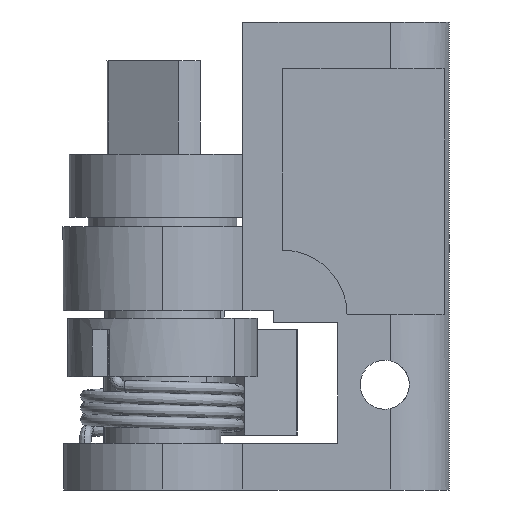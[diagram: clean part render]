
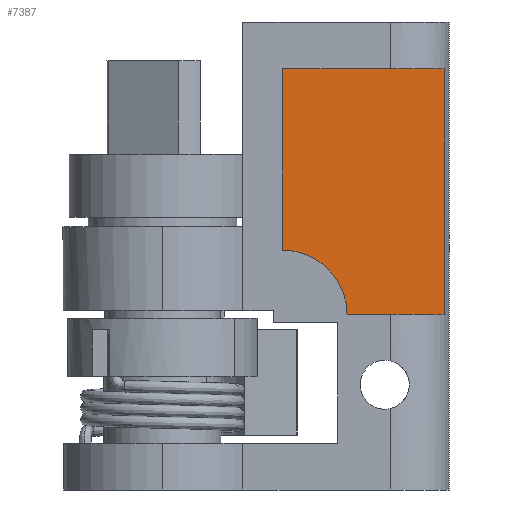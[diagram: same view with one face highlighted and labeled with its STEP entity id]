
A CAD part, left-side view. The second image highlights one B-rep face of the part: STEP entity #7387.
In plain terms, the highlighted planar face has unit normal (-1, 0, 0).
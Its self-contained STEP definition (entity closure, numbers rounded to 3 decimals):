
#102 = CARTESIAN_POINT ( 'NONE',  ( -2., -15.782, 15. ) ) ;
#114 = CARTESIAN_POINT ( 'NONE',  ( -2., -24.083, 15. ) ) ;
#863 = DIRECTION ( 'NONE',  ( 0., 0., 1. ) ) ;
#864 = CARTESIAN_POINT ( 'NONE',  ( -2., -10.282, 36. ) ) ;
#868 = DIRECTION ( 'NONE',  ( 0., -1., 0. ) ) ;
#870 = CARTESIAN_POINT ( 'NONE',  ( -2., -10.282, 36. ) ) ;
#874 = DIRECTION ( 'NONE',  ( 0., 0., -1. ) ) ;
#875 = DIRECTION ( 'NONE',  ( -1., 0., 0. ) ) ;
#884 = CARTESIAN_POINT ( 'NONE',  ( -2., -10.282, 15. ) ) ;
#894 = DIRECTION ( 'NONE',  ( 0., 1., 0. ) ) ;
#895 = CARTESIAN_POINT ( 'NONE',  ( -2., -15.782, 15. ) ) ;
#997 = DIRECTION ( 'NONE',  ( 0., 0., -1. ) ) ;
#998 = CARTESIAN_POINT ( 'NONE',  ( -2., -24.083, 40. ) ) ;
#1175 = AXIS2_PLACEMENT_3D ( 'NONE', #884, #875, #874 ) ;
#1404 = EDGE_CURVE ( 'NONE', #3181, #2857, #6114, .T. ) ;
#1440 = EDGE_CURVE ( 'NONE', #2857, #2874, #6052, .T. ) ;
#1447 = EDGE_CURVE ( 'NONE', #2874, #3208, #6036, .T. ) ;
#1449 = EDGE_CURVE ( 'NONE', #3179, #3181, #6035, .T. ) ;
#1451 = EDGE_CURVE ( 'NONE', #3208, #3179, #6031, .T. ) ;
#1956 = DIRECTION ( 'NONE',  ( 0., 0., -1. ) ) ;
#1957 = DIRECTION ( 'NONE',  ( 1., 0., 0. ) ) ;
#1963 = CARTESIAN_POINT ( 'NONE',  ( -2., -10.282, 15. ) ) ;
#1966 = PLANE ( 'NONE',  #5290 ) ;
#2857 = VERTEX_POINT ( 'NONE', #114 ) ;
#2874 = VERTEX_POINT ( 'NONE', #102 ) ;
#3179 = VERTEX_POINT ( 'NONE', #6412 ) ;
#3181 = VERTEX_POINT ( 'NONE', #6407 ) ;
#3208 = VERTEX_POINT ( 'NONE', #6273 ) ;
#4478 = ORIENTED_EDGE ( 'NONE', *, *, #1404, .F. ) ;
#4551 = ORIENTED_EDGE ( 'NONE', *, *, #1451, .F. ) ;
#4583 = ORIENTED_EDGE ( 'NONE', *, *, #1440, .F. ) ;
#5107 = EDGE_LOOP ( 'NONE', ( #5164, #4551, #5175, #4583, #4478 ) ) ;
#5164 = ORIENTED_EDGE ( 'NONE', *, *, #1449, .F. ) ;
#5175 = ORIENTED_EDGE ( 'NONE', *, *, #1447, .F. ) ;
#5290 = AXIS2_PLACEMENT_3D ( 'NONE', #1963, #1957, #1956 ) ;
#5483 = FACE_OUTER_BOUND ( 'NONE', #5107, .T. ) ;
#6030 = VECTOR ( 'NONE', #863, 1000. ) ;
#6031 = LINE ( 'NONE', #864, #6030 ) ;
#6034 = VECTOR ( 'NONE', #868, 1000. ) ;
#6035 = LINE ( 'NONE', #870, #6034 ) ;
#6036 = CIRCLE ( 'NONE', #1175, 5.5 ) ;
#6051 = VECTOR ( 'NONE', #894, 1000. ) ;
#6052 = LINE ( 'NONE', #895, #6051 ) ;
#6113 = VECTOR ( 'NONE', #997, 1000. ) ;
#6114 = LINE ( 'NONE', #998, #6113 ) ;
#6273 = CARTESIAN_POINT ( 'NONE',  ( -2., -10.282, 20.5 ) ) ;
#6407 = CARTESIAN_POINT ( 'NONE',  ( -2., -24.083, 36. ) ) ;
#6412 = CARTESIAN_POINT ( 'NONE',  ( -2., -10.282, 36. ) ) ;
#7387 = ADVANCED_FACE ( 'NONE', ( #5483 ), #1966, .F. ) ;
